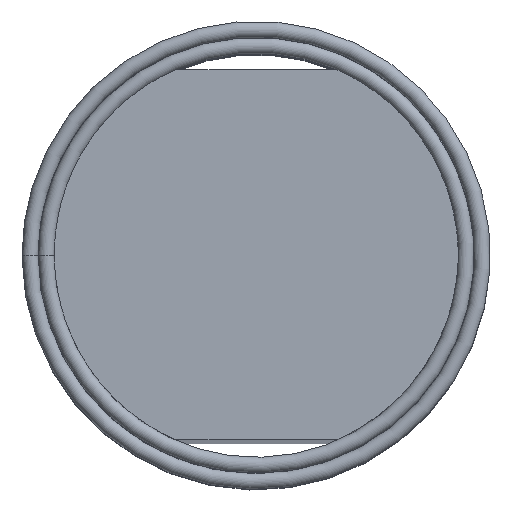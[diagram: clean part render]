
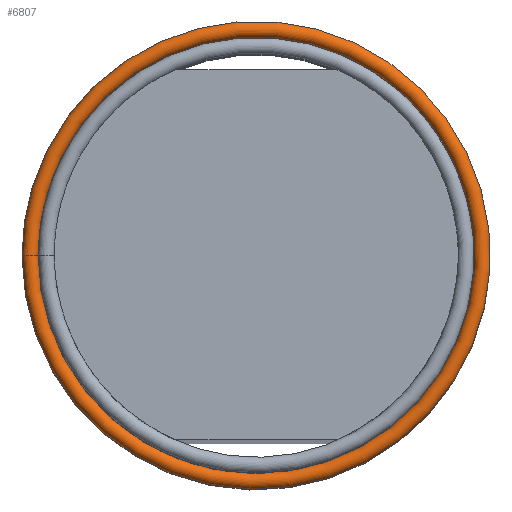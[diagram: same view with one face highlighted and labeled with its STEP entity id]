
A CAD part, top view. The second image highlights one B-rep face of the part: STEP entity #6807.
In plain terms, the highlighted toroidal (fillet/blend) face has major radius 5.6 mm and minor radius 0.2 mm.
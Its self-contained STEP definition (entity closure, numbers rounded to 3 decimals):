
#6773=DIRECTION('',(0.,0.,0.));
#6774=CARTESIAN_POINT('',(8.89,6.35,-1.));
#6775=AXIS2_PLACEMENT_3D('',#6774,#6773,$);
#6776=TOROIDAL_SURFACE('',#6775,5.6,0.2);
#6777=DIRECTION('',(0.,5.6,0.));
#6778=CARTESIAN_POINT('',(3.29,6.35,-1.));
#6779=AXIS2_PLACEMENT_3D('',#6778,#6777,$);
#6780=CIRCLE('',#6779,0.2);
#6781=CARTESIAN_POINT('',(3.29,6.35,-0.8));
#6782=VERTEX_POINT('',#6781);
#6783=EDGE_CURVE('',#6782,#6782,#6780,.T.);
#6784=ORIENTED_EDGE('',*,*,#6783,.F.);
#6785=EDGE_LOOP('',(#6784));
#6786=FACE_OUTER_BOUND('',#6785,.T.);
#6792=DIRECTION('',(0.,5.6,0.));
#6793=CARTESIAN_POINT('',(3.29,6.35,-1.));
#6794=AXIS2_PLACEMENT_3D('',#6793,#6792,$);
#6795=CIRCLE('',#6794,0.2);
#6796=CARTESIAN_POINT('',(3.29,6.35,-0.8));
#6797=VERTEX_POINT('',#6796);
#6798=EDGE_CURVE('',#6797,#6797,#6795,.T.);
#6799=ORIENTED_EDGE('',*,*,#6798,.T.);
#6800=EDGE_LOOP('',(#6799));
#6801=FACE_OUTER_BOUND('',#6800,.T.);
#6807=ADVANCED_FACE('',(#6786,#6801),#6776,.T.);
